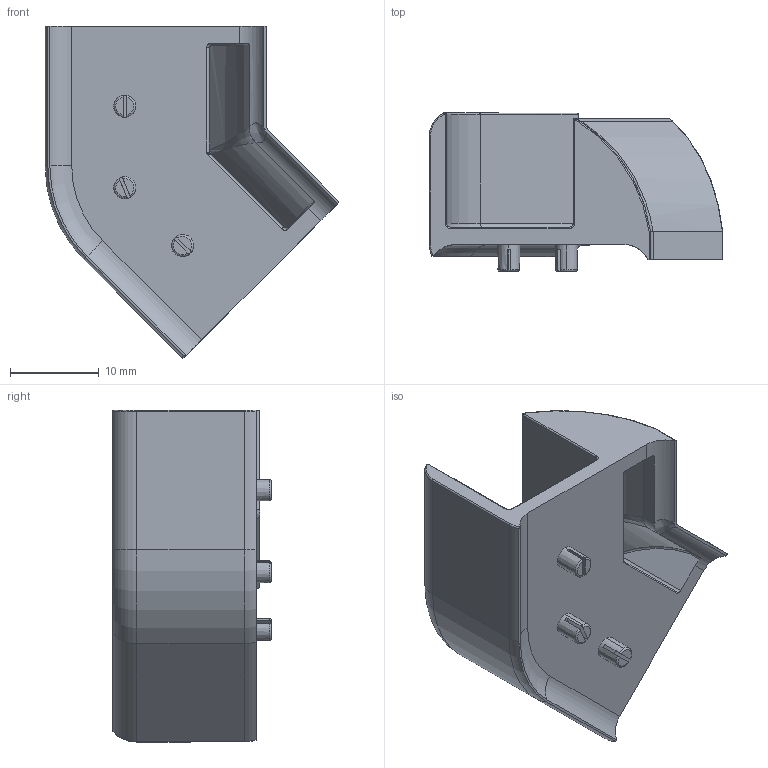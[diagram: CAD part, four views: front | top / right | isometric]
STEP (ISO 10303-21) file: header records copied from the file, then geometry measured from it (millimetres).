
FILE_DESCRIPTION (( 'STEP AP203' ), '1' );
FILE_NAME ('013.025.128.STEP', '2020-09-21T07:09:11', ( '' ), ( '' ), 'SwSTEP 2.0', 'SolidWorks 2018', '' );
FILE_SCHEMA (( 'CONFIG_CONTROL_DESIGN' ));
Length unit declared in the file: millimetre
Products named in the file (1): 013.025.128
Bounding box: 33.17 x 17.89 x 37.5 mm (x, y, z)
Volume: 3943.2 mm3; surface area: 4361.6 mm2
Topology: 1 solids, 1 shells, 135 faces, 333 edges, 200 vertices
Faces by surface type: cylinder 45, plane 36, torus 29, bspline 17, cone 6, sphere 2
Entity records: 4684 total; most frequent: CARTESIAN_POINT 1546, ORIENTED_EDGE 658, DIRECTION 638, EDGE_CURVE 329, AXIS2_PLACEMENT_3D 261, VERTEX_POINT 199, CIRCLE 142, EDGE_LOOP 138
